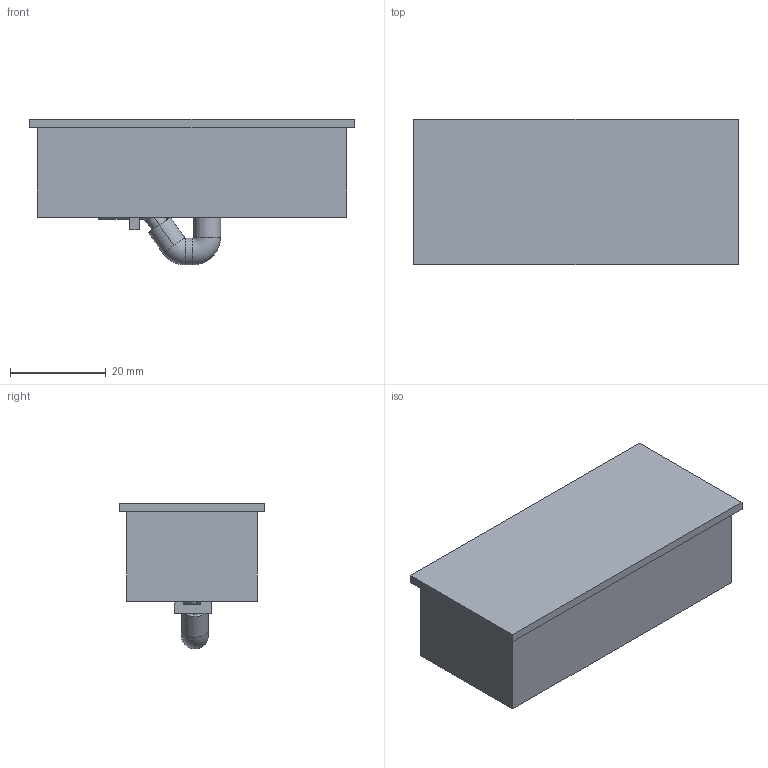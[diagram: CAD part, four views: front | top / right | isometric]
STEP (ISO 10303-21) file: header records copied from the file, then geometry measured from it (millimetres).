
FILE_DESCRIPTION( ( '' ), '1' );
FILE_NAME( 'C:/Users/dhek/Desktop/New folder/C_6/Legadrive/9243921.stp', '2018-02-20T11:51:18', ( '' ), ( '' ), ' ', ' ', ' ' );
FILE_SCHEMA( ( 'CONFIG_CONTROL_DESIGN' ) );
Length unit declared in the file: millimetre
Products named in the file (1): 1
Bounding box: 67.73 x 30.33 x 30.49 mm (x, y, z)
Volume: 33955.1 mm3; surface area: 8980 mm2
Topology: 1 solids, 1 shells, 45 faces, 112 edges, 73 vertices
Faces by surface type: plane 29, cylinder 10, torus 6
Entity records: 1458 total; most frequent: CARTESIAN_POINT 305, DIRECTION 236, ORIENTED_EDGE 224, EDGE_CURVE 112, AXIS2_PLACEMENT_3D 80, LINE 76, VECTOR 76, VERTEX_POINT 73
